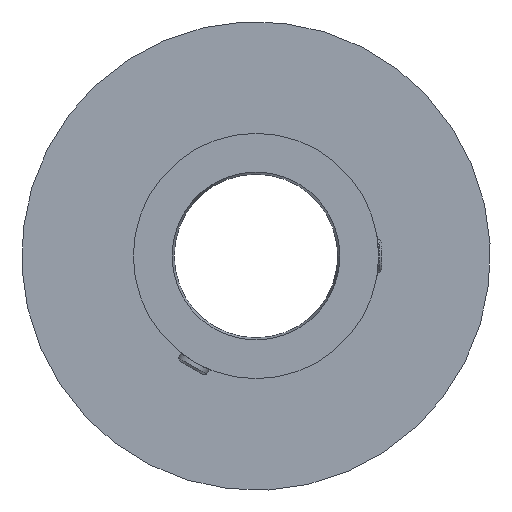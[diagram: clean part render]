
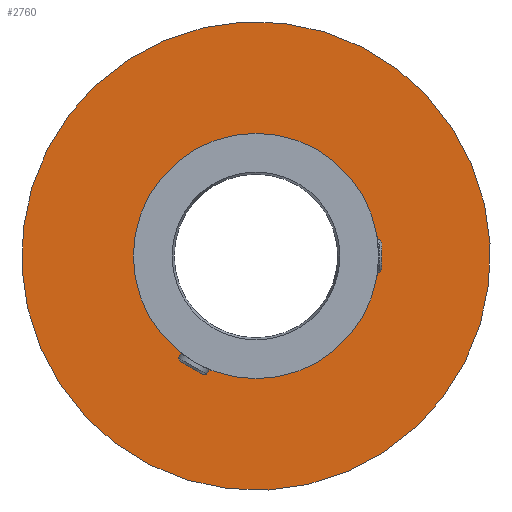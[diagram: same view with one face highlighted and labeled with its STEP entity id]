
A CAD part, left-side view. The second image highlights one B-rep face of the part: STEP entity #2760.
In plain terms, the highlighted planar face has unit normal (-1, 0, 0).
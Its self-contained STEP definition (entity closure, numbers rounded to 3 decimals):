
#886=CARTESIAN_POINT('',(8.,-1.519,-28.61));
#887=VERTEX_POINT('',#886);
#888=CARTESIAN_POINT('',(8.,0.,0.));
#889=DIRECTION('',(-1.0,0.,0.));
#890=DIRECTION('',(0.,0.053,0.999));
#891=AXIS2_PLACEMENT_3D('',#888,#889,#890);
#892=CIRCLE('',#891,28.65);
#893=EDGE_CURVE('',#887,#887,#892,.T.);
#2702=CARTESIAN_POINT('',(8.0,15.,0.0));
#2703=VERTEX_POINT('',#2702);
#2704=CARTESIAN_POINT('',(8.0,0.0,0.0));
#2705=DIRECTION('',(1.0,0.0,0.0));
#2706=DIRECTION('',(0.0,1.0,0.0));
#2707=AXIS2_PLACEMENT_3D('',#2704,#2705,#2706);
#2708=CIRCLE('',#2707,15.);
#2709=EDGE_CURVE('',#2703,#2703,#2708,.T.);
#2749=CARTESIAN_POINT('',(8.,20.0,0.0));
#2750=DIRECTION('',(-1.0,0.0,0.0));
#2751=DIRECTION('',(0.0,0.0,1.0));
#2752=AXIS2_PLACEMENT_3D('',#2749,#2750,#2751);
#2753=PLANE('',#2752);
#2754=ORIENTED_EDGE('',*,*,#893,.T.);
#2755=EDGE_LOOP('',(#2754));
#2756=FACE_OUTER_BOUND('',#2755,.T.);
#2757=ORIENTED_EDGE('',*,*,#2709,.T.);
#2758=EDGE_LOOP('',(#2757));
#2759=FACE_BOUND('',#2758,.T.);
#2760=ADVANCED_FACE('',(#2756,#2759),#2753,.T.);
